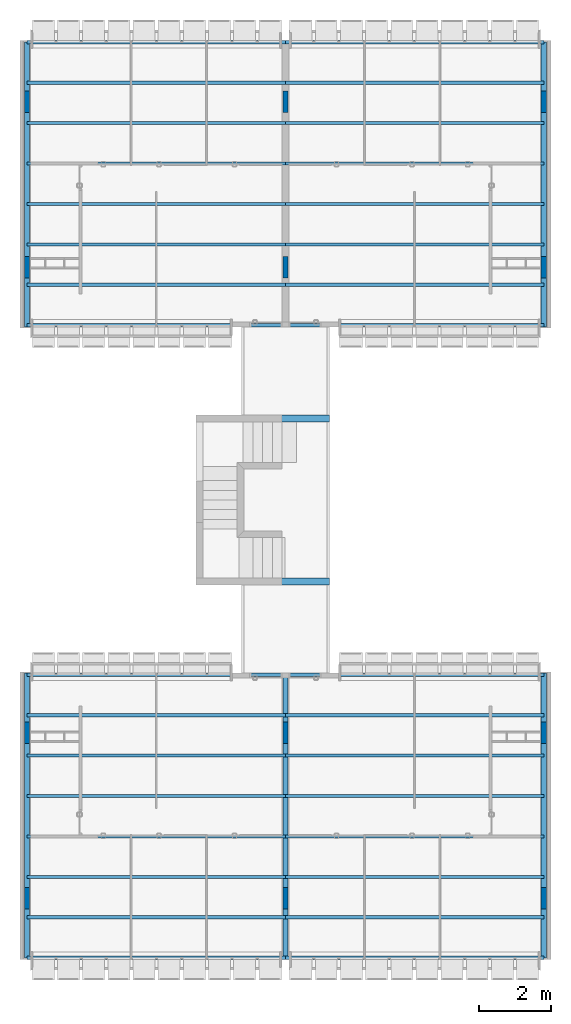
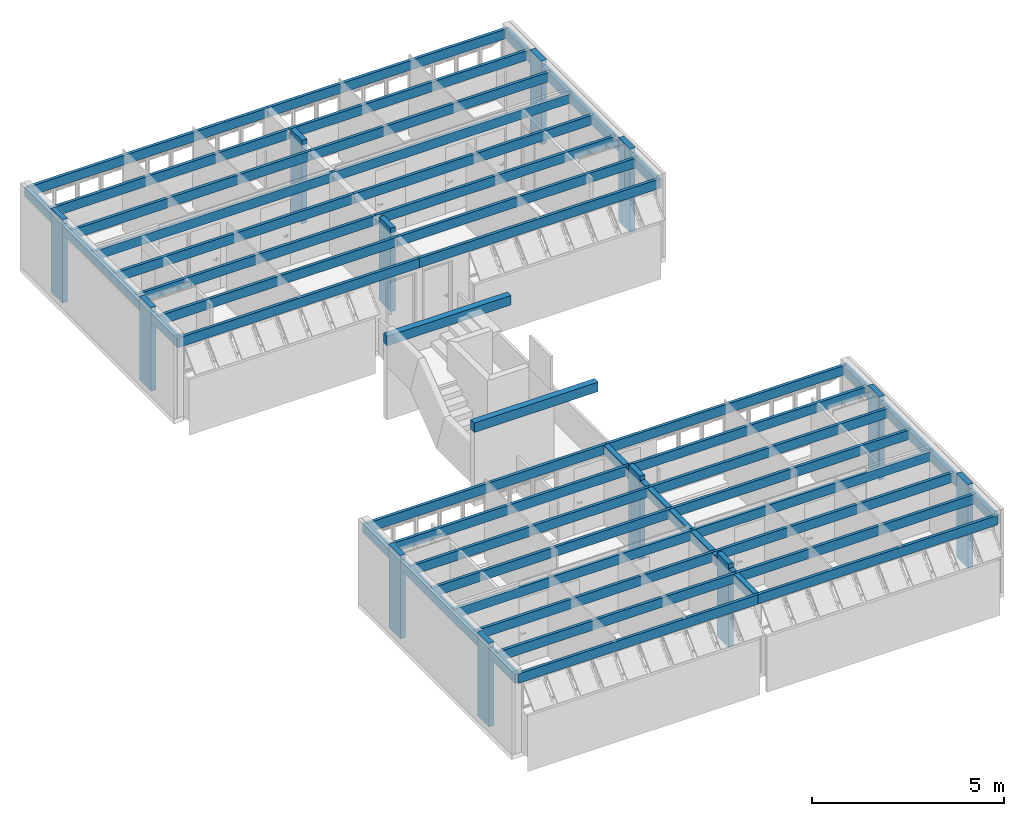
# One storey, part 1 of 41: 39 beams, 12 columns.
"""IFC4 building model written with IfcOpenShell, lengths in millimetres."""

from ifc_helpers import new_model, entity, si_unit, converted_unit, derived_unit, direction, frame, frame_2d, origin_with_axes, origin_2d_with_axis, place, context, subcontext, project, spatial, rectangle, extrude, material, type_object, element, save


model = new_model("IFC4")

# Units and contexts
model_context = context("Model", 3, precision=0.01, world=origin_with_axes(), true_north=direction((0.0, 1.0)))
body_context = subcontext(model_context, "Body", "Model", "MODEL_VIEW")
ifc_project = project(units=[si_unit("LENGTHUNIT", "METRE", prefix="MILLI"), si_unit("AREAUNIT", "SQUARE_METRE"), si_unit("VOLUMEUNIT", "CUBIC_METRE"), converted_unit("PLANEANGLEUNIT", "DEGREE", entity("IfcPlaneAngleMeasure", 0.0174532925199), si_unit("PLANEANGLEUNIT", "RADIAN"), dimensions=[0, 0, 0, 0, 0, 0, 0]), converted_unit("TIMEUNIT", "Year", entity("IfcTimeMeasure", 31556926.0), si_unit("TIMEUNIT", "SECOND"), dimensions=[0, 0, 1, 0, 0, 0, 0]), si_unit("MASSUNIT", "GRAM", prefix="KILO"), si_unit("THERMODYNAMICTEMPERATUREUNIT", "DEGREE_CELSIUS"), si_unit("LUMINOUSINTENSITYUNIT", "LUMEN"), si_unit("ENERGYUNIT", "JOULE", prefix="MEGA"), derived_unit("THERMALCONDUCTANCEUNIT", [(si_unit("POWERUNIT", "WATT"), 1), (si_unit("LENGTHUNIT", "METRE"), -1), (si_unit("THERMODYNAMICTEMPERATUREUNIT", "KELVIN"), -1)]), derived_unit("SPECIFICHEATCAPACITYUNIT", [(si_unit("ENERGYUNIT", "JOULE"), 1), (si_unit("MASSUNIT", "GRAM", prefix="KILO"), -1), (si_unit("THERMODYNAMICTEMPERATUREUNIT", "KELVIN"), -1)]), derived_unit("MASSDENSITYUNIT", [(si_unit("MASSUNIT", "GRAM", prefix="KILO"), 1), (si_unit("VOLUMEUNIT", "CUBIC_METRE"), -1)])], contexts=[model_context])

# Site, building, storey
site_placement = place(None, origin_with_axes())
site = spatial("IfcSite", under=ifc_project, at=site_placement, Name="Local", CompositionType="ELEMENT")
building_placement = place(site_placement, origin_with_axes())
building = spatial("IfcBuilding", under=site, at=building_placement, Name="Construção", CompositionType="ELEMENT")
storey_placement = place(building_placement, frame((0.0, 0.0, 2650.0), z_axis=(0.0, 0.0, 1.0), x_axis=(1.0, 0.0, 0.0)))
storey = spatial("IfcBuildingStorey", under=building, at=storey_placement, Name="Segundo Pavimento", CompositionType="ELEMENT", Elevation=2650.0)

# Columns
ifc_material = material(Name="Concreto Armado Moldado in Loco - Estrutural")
column_type = type_object("IfcColumnType", Name="Concreto Armado Moldado in Loco - Estrutural 600 x 150", PredefinedType="NOTDEFINED")
column_placement = place(storey_placement, frame((7385.0, 19560.0, 0.0), z_axis=(0.0, 0.0, 1.0), x_axis=(0.0, -1.0, 0.0)))
element("IfcColumn", 1, at=column_placement, inside=storey, type_object=column_type, material=ifc_material, Name="CIRC2-PILAR-004", PredefinedType="NOTDEFINED", context=body_context, shape_type="SweptSolid", body=[
    extrude(rectangle(XDim=600.0, YDim=150.0, at=origin_2d_with_axis()), frame((0.0, 0.0, 0.0), z_axis=(0.0, 0.0, -1.0), x_axis=(-1.0, 0.0, 0.0)), (0.0, 0.0, -1.0), 2650.0),
])
for number, where, z_axis, x_axis, name in (
    (2, (195.0, 2000.0, 0.0), (0.0, 0.0, 1.0), (0.0, -1.0, 0.0), "APTO5-PILAR-000"),
    (3, (195.0, 6600.0, 0.0), (0.0, 0.0, 1.0), (0.0, -1.0, 0.0), "APTO5-PILAR-001"),
    (4, (7385.0, 6600.0, 0.0), (0.0, 0.0, 1.0), (0.0, -1.0, 0.0), "CIRC2-PILAR-003"),
):
    element("IfcColumn", number, at=place(storey_placement, frame(where, z_axis=z_axis, x_axis=x_axis)), inside=storey, type_object=column_type, material=ifc_material, Name=name, PredefinedType="NOTDEFINED", context=body_context, shape_type="SweptSolid", body=[
        extrude(rectangle(XDim=600.0, YDim=150.0, at=origin_2d_with_axis()), origin_with_axes(), (0.0, 0.0, 1.0), 2650.0),
    ])
for number, where, z_axis, x_axis, name in (
    (5, (7385.0, 24160.0, 0.0), (0.0, 0.0, 1.0), (0.0, -1.0, 0.0), "CIRC2-PILAR-005"),
    (6, (14575.0, 2000.0, 0.0), (0.0, 0.0, 1.0), (0.0, 1.0, 0.0), "APTO6-PILAR-000"),
    (7, (14575.0, 6600.0, 0.0), (0.0, 0.0, 1.0), (0.0, 1.0, 0.0), "APTO6-PILAR-001"),
    (8, (195.0, 24160.0, 0.0), (0.0, 0.0, 1.0), (0.0, -1.0, 0.0), "APTO7-PILAR-000"),
    (9, (195.0, 19560.0, 0.0), (0.0, 0.0, 1.0), (0.0, -1.0, 0.0), "APTO7-PILAR-001"),
):
    element("IfcColumn", number, at=place(storey_placement, frame(where, z_axis=z_axis, x_axis=x_axis)), inside=storey, type_object=column_type, material=ifc_material, Name=name, PredefinedType="NOTDEFINED", context=body_context, shape_type="SweptSolid", body=[
        extrude(rectangle(XDim=600.0, YDim=150.0, at=origin_2d_with_axis()), frame((0.0, 0.0, 0.0), z_axis=(0.0, 0.0, -1.0), x_axis=(-1.0, 0.0, 0.0)), (0.0, 0.0, -1.0), 2650.0),
    ])
for number, where, z_axis, x_axis, name in (
    (10, (14575.0, 24160.0, 0.0), (0.0, 0.0, 1.0), (0.0, 1.0, 0.0), "APTO8-PILAR-000"),
    (11, (14575.0, 19560.0, 0.0), (0.0, 0.0, 1.0), (0.0, 1.0, 0.0), "APTO8-PILAR-001"),
    (12, (7385.0, 2000.0, 0.0), (0.0, 0.0, 1.0), (0.0, -1.0, 0.0), "CIRC2-PILAR-002"),
):
    element("IfcColumn", number, at=place(storey_placement, frame(where, z_axis=z_axis, x_axis=x_axis)), inside=storey, type_object=column_type, material=ifc_material, Name=name, PredefinedType="NOTDEFINED", context=body_context, shape_type="SweptSolid", body=[
        extrude(rectangle(XDim=600.0, YDim=150.0, at=origin_2d_with_axis()), origin_with_axes(), (0.0, 0.0, 1.0), 2650.0),
    ])

# Beams
beam_type_1 = type_object("IfcBeamType", Name="Concreto Armado Moldado in Loco - Estrutural 150 x 300", PredefinedType="NOTDEFINED")
beam_placement = place(storey_placement, frame((270.0, 8265.0, 2500.0), z_axis=(0.0, 0.0, 1.0), x_axis=(-1.0, 0.0, 0.0)))
element("IfcBeam", 13, at=beam_placement, inside=storey, type_object=beam_type_1, material=ifc_material, Name="APTO5-VIGA-009", PredefinedType="NOTDEFINED", context=body_context, shape_type="SweptSolid", body=[
    extrude(rectangle(XDim=300.0, YDim=150.0, at=frame_2d((-150.0, 75.0), x_axis=(1.0, 0.0))), frame((0.0, 0.0, 0.0), z_axis=(0.0, 1.0, 0.0), x_axis=(0.0, 0.0, 1.0)), (0.0, 0.0, 1.0), 7929.97902127),
])
for number, where, z_axis, x_axis, name in (
    (14, (14500.0, 8265.0, 2500.0), (0.0, 0.0, 1.0), (-1.0, 0.0, 0.0), "APTO6-VIGA-009"),
    (15, (270.0, 17895.0, 2500.0), (0.0, 0.0, 1.0), (1.0, 0.0, 0.0), "APTO7-VIGA-009"),
):
    element("IfcBeam", number, at=place(storey_placement, frame(where, z_axis=z_axis, x_axis=x_axis)), inside=storey, type_object=beam_type_1, material=ifc_material, Name=name, PredefinedType="NOTDEFINED", context=body_context, shape_type="SweptSolid", body=[
        extrude(rectangle(XDim=300.0, YDim=150.0, at=frame_2d((-150.0, -75.0), x_axis=(1.0, 0.0))), frame((0.0, 0.0, 0.0), z_axis=(0.0, 1.0, 0.0), x_axis=(0.0, 0.0, 1.0)), (0.0, 0.0, 1.0), 7929.97902127),
    ])
for number, where, z_axis, x_axis, name in (
    (16, (14500.0, 17895.0, 2500.0), (0.0, 0.0, 1.0), (1.0, 0.0, 0.0), "APTO8-VIGA-009"),
    (17, (7460.0, 8265.0, 2500.0), (0.0, 0.0, 1.0), (-1.0, 0.0, 0.0), "CIRC2-VIGA-012"),
):
    element("IfcBeam", number, at=place(storey_placement, frame(where, z_axis=z_axis, x_axis=x_axis)), inside=storey, type_object=beam_type_1, material=ifc_material, Name=name, PredefinedType="NOTDEFINED", context=body_context, shape_type="SweptSolid", body=[
        extrude(rectangle(XDim=300.0, YDim=150.0, at=frame_2d((-150.0, 75.0), x_axis=(1.0, 0.0))), frame((0.0, 0.0, 0.0), z_axis=(0.0, 1.0, 0.0), x_axis=(0.0, 0.0, 1.0)), (0.0, 0.0, 1.0), 7929.97902127),
    ])
beam_type_2 = type_object("IfcBeamType", Name="Concreto Armado Moldado in Loco - Estrutural 90 x 300", PredefinedType="NOTDEFINED")
for number, where, z_axis, x_axis, name in (
    (18, (195.0, 390.0, 2500.0), (0.0, 0.0, 1.0), (0.0, -1.0, 0.0), "APTO5-VIGA-001"),
    (19, (195.0, 1515.0, 2500.0), (0.0, 0.0, 1.0), (0.0, -1.0, 0.0), "APTO5-VIGA-002"),
    (20, (195.0, 2640.0, 2500.0), (0.0, 0.0, 1.0), (0.0, -1.0, 0.0), "APTO5-VIGA-003"),
    (21, (195.0, 3765.2195667, 2500.0), (0.0, 0.0, 1.0), (0.0, -1.0, 0.0), "APTO5-VIGA-004"),
    (22, (195.0, 4890.0, 2500.0), (0.0, 0.0, 1.0), (0.0, -1.0, 0.0), "APTO5-VIGA-005"),
    (23, (195.0, 8265.0, 2500.0), (0.0, 0.0, 1.0), (0.0, -1.0, 0.0), "APTO5-VIGA-008"),
    (24, (195.0, 6015.0, 2500.0), (0.0, 0.0, 1.0), (0.0, -1.0, 0.0), "APTO5-VIGA-006"),
    (25, (195.0, 7140.0, 2500.0), (0.0, 0.0, 1.0), (0.0, -1.0, 0.0), "APTO5-VIGA-007"),
):
    element("IfcBeam", number, at=place(storey_placement, frame(where, z_axis=z_axis, x_axis=x_axis)), inside=storey, type_object=beam_type_2, material=ifc_material, Name=name, PredefinedType="NOTDEFINED", context=body_context, shape_type="SweptSolid", body=[
        extrude(rectangle(XDim=300.0, YDim=90.0, at=frame_2d((-150.0, 45.0), x_axis=(1.0, 0.0))), frame((0.0, 0.0, 0.0), z_axis=(0.0, 1.0, 0.0), x_axis=(0.0, 0.0, 1.0)), (0.0, 0.0, 1.0), 7190.0),
    ])
for number, where, z_axis, x_axis, name in (
    (26, (14575.0, 390.0, 2500.0), (0.0, 0.0, 1.0), (0.0, 1.0, 0.0), "APTO6-VIGA-001"),
    (27, (14575.0, 1515.0, 2500.0), (0.0, 0.0, 1.0), (0.0, 1.0, 0.0), "APTO6-VIGA-002"),
    (28, (14575.0, 2640.0, 2500.0), (0.0, 0.0, 1.0), (0.0, 1.0, 0.0), "APTO6-VIGA-003"),
    (29, (14575.0, 3765.2195667, 2500.0), (0.0, 0.0, 1.0), (0.0, 1.0, 0.0), "APTO6-VIGA-004"),
    (30, (14575.0, 4890.0, 2500.0), (0.0, 0.0, 1.0), (0.0, 1.0, 0.0), "APTO6-VIGA-005"),
    (31, (14575.0, 8265.0, 2500.0), (0.0, 0.0, 1.0), (0.0, 1.0, 0.0), "APTO6-VIGA-008"),
    (32, (14575.0, 6015.0, 2500.0), (0.0, 0.0, 1.0), (0.0, 1.0, 0.0), "APTO6-VIGA-006"),
    (33, (14575.0, 7140.0, 2500.0), (0.0, 0.0, 1.0), (0.0, 1.0, 0.0), "APTO6-VIGA-007"),
    (34, (195.0, 25770.0, 2500.0), (0.0, 0.0, 1.0), (0.0, -1.0, 0.0), "APTO7-VIGA-001"),
    (35, (195.0, 24645.0, 2500.0), (0.0, 0.0, 1.0), (0.0, -1.0, 0.0), "APTO7-VIGA-002"),
    (36, (195.0, 23520.0, 2500.0), (0.0, 0.0, 1.0), (0.0, -1.0, 0.0), "APTO7-VIGA-003"),
    (37, (195.0, 22394.7804333, 2500.0), (0.0, 0.0, 1.0), (0.0, -1.0, 0.0), "APTO7-VIGA-004"),
    (38, (195.0, 21270.0, 2500.0), (0.0, 0.0, 1.0), (0.0, -1.0, 0.0), "APTO7-VIGA-005"),
    (39, (195.0, 17895.0, 2500.0), (0.0, 0.0, 1.0), (0.0, -1.0, 0.0), "APTO7-VIGA-008"),
    (40, (195.0, 20145.0, 2500.0), (0.0, 0.0, 1.0), (0.0, -1.0, 0.0), "APTO7-VIGA-006"),
    (41, (195.0, 19020.0, 2500.0), (0.0, 0.0, 1.0), (0.0, -1.0, 0.0), "APTO7-VIGA-007"),
):
    element("IfcBeam", number, at=place(storey_placement, frame(where, z_axis=z_axis, x_axis=x_axis)), inside=storey, type_object=beam_type_2, material=ifc_material, Name=name, PredefinedType="NOTDEFINED", context=body_context, shape_type="SweptSolid", body=[
        extrude(rectangle(XDim=300.0, YDim=90.0, at=frame_2d((-150.0, -45.0), x_axis=(1.0, 0.0))), frame((0.0, 0.0, 0.0), z_axis=(0.0, 1.0, 0.0), x_axis=(0.0, 0.0, 1.0)), (0.0, 0.0, 1.0), 7190.0),
    ])
for number, where, z_axis, x_axis, name in (
    (42, (14575.0, 25770.0, 2500.0), (0.0, 0.0, 1.0), (0.0, 1.0, 0.0), "APTO8-VIGA-001"),
    (43, (14575.0, 24645.0, 2500.0), (0.0, 0.0, 1.0), (0.0, 1.0, 0.0), "APTO8-VIGA-002"),
    (44, (14575.0, 23520.0, 2500.0), (0.0, 0.0, 1.0), (0.0, 1.0, 0.0), "APTO8-VIGA-003"),
    (45, (14575.0, 22394.7804333, 2500.0), (0.0, 0.0, 1.0), (0.0, 1.0, 0.0), "APTO8-VIGA-004"),
    (46, (14575.0, 21270.0, 2500.0), (0.0, 0.0, 1.0), (0.0, 1.0, 0.0), "APTO8-VIGA-005"),
    (47, (14575.0, 17895.0, 2500.0), (0.0, 0.0, 1.0), (0.0, 1.0, 0.0), "APTO8-VIGA-008"),
    (48, (14575.0, 20145.0, 2500.0), (0.0, 0.0, 1.0), (0.0, 1.0, 0.0), "APTO8-VIGA-006"),
    (49, (14575.0, 19020.0, 2500.0), (0.0, 0.0, 1.0), (0.0, 1.0, 0.0), "APTO8-VIGA-007"),
):
    element("IfcBeam", number, at=place(storey_placement, frame(where, z_axis=z_axis, x_axis=x_axis)), inside=storey, type_object=beam_type_2, material=ifc_material, Name=name, PredefinedType="NOTDEFINED", context=body_context, shape_type="SweptSolid", body=[
        extrude(rectangle(XDim=300.0, YDim=90.0, at=frame_2d((-150.0, 45.0), x_axis=(1.0, 0.0))), frame((0.0, 0.0, 0.0), z_axis=(0.0, 1.0, 0.0), x_axis=(0.0, 0.0, 1.0)), (0.0, 0.0, 1.0), 7190.0),
    ])
beam_type_3 = type_object("IfcBeamType", Name="Concreto Armado Moldado in Loco - Estrutural 190 x 300", PredefinedType="NOTDEFINED")
for number, where, z_axis, x_axis, name in (
    (50, (4890.0, 10815.0, 2350.0), (0.0, 0.0, 1.0), (0.0, -1.0, 0.0), "CIRC2-VIGA-010"),
    (51, (4890.0, 15345.0, 2350.0), (0.0, 0.0, 1.0), (0.0, -1.0, 0.0), "CIRC2-VIGA-011"),
):
    element("IfcBeam", number, at=place(storey_placement, frame(where, z_axis=z_axis, x_axis=x_axis)), inside=storey, type_object=beam_type_3, material=ifc_material, Name=name, PredefinedType="NOTDEFINED", context=body_context, shape_type="SweptSolid", body=[
        extrude(rectangle(XDim=300.0, YDim=190.0, at=origin_2d_with_axis()), frame((0.0, 0.0, 0.0), z_axis=(0.0, 1.0, 0.0), x_axis=(0.0, 0.0, 1.0)), (0.0, 0.0, 1.0), 3720.0),
    ])

save(model, "model.ifc")
